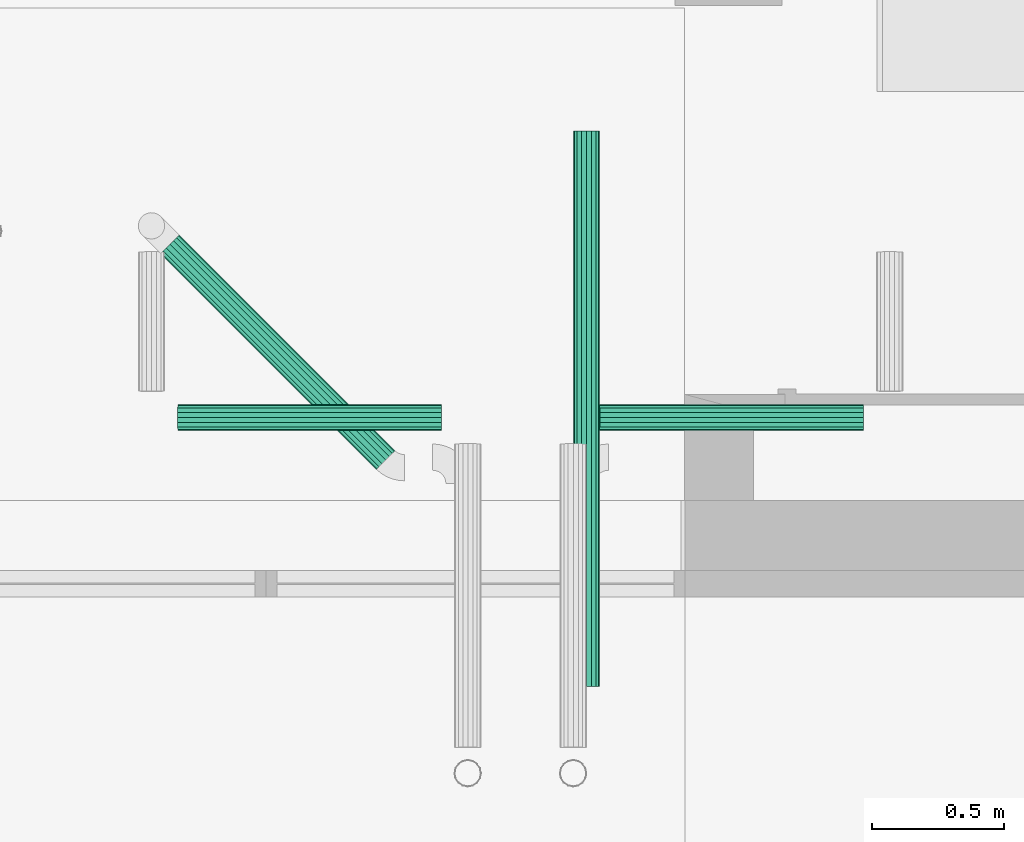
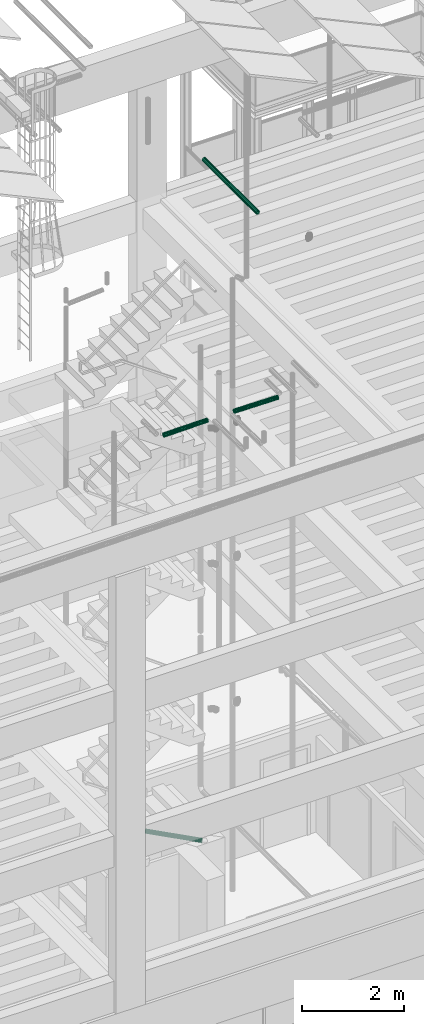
# One storey, part 40 of 108: 4 flow segments.
"""IFC2X3 building model written with IfcOpenShell, lengths in metres."""

from ifc_helpers import new_model, entity, si_unit, converted_unit, derived_unit, money_unit, direction, frame, origin_with_axes, place, context, subcontext, project, spatial, faceted_brep, material, type_object, element, save


model = new_model("IFC2X3")

# Units and contexts
model_context = context("Model", 3, precision=1e-05, world=origin_with_axes(), true_north=direction((0.0, 1.0)))
body_context = subcontext(model_context, "Body", "Model", "MODEL_VIEW", scale=1.0)
ifc_project = project(units=[si_unit("LENGTHUNIT", "METRE"), si_unit("AREAUNIT", "SQUARE_METRE"), si_unit("VOLUMEUNIT", "CUBIC_METRE"), si_unit("ABSORBEDDOSEUNIT", "GRAY"), si_unit("AMOUNTOFSUBSTANCEUNIT", "MOLE"), si_unit("DOSEEQUIVALENTUNIT", "SIEVERT"), si_unit("ELECTRICCAPACITANCEUNIT", "FARAD"), si_unit("ELECTRICCHARGEUNIT", "COULOMB"), si_unit("ELECTRICCONDUCTANCEUNIT", "SIEMENS"), si_unit("ELECTRICCURRENTUNIT", "AMPERE"), si_unit("ELECTRICRESISTANCEUNIT", "OHM"), si_unit("ELECTRICVOLTAGEUNIT", "VOLT"), si_unit("ENERGYUNIT", "JOULE"), si_unit("FORCEUNIT", "NEWTON"), si_unit("FREQUENCYUNIT", "HERTZ"), si_unit("ILLUMINANCEUNIT", "LUX"), si_unit("INDUCTANCEUNIT", "HENRY"), si_unit("LUMINOUSFLUXUNIT", "LUMEN"), si_unit("LUMINOUSINTENSITYUNIT", "CANDELA"), si_unit("MAGNETICFLUXDENSITYUNIT", "TESLA"), si_unit("MAGNETICFLUXUNIT", "WEBER"), si_unit("MASSUNIT", "GRAM"), converted_unit("PLANEANGLEUNIT", "degree", entity("IfcReal", 0.0174532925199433), si_unit("PLANEANGLEUNIT", "RADIAN"), dimensions=[0, 0, 0, 0, 0, 0, 0]), si_unit("POWERUNIT", "WATT"), si_unit("PRESSUREUNIT", "PASCAL"), si_unit("RADIOACTIVITYUNIT", "BECQUEREL"), si_unit("SOLIDANGLEUNIT", "STERADIAN"), si_unit("THERMODYNAMICTEMPERATUREUNIT", "KELVIN"), si_unit("TIMEUNIT", "SECOND"), derived_unit("ACCELERATIONUNIT", [(si_unit("LENGTHUNIT", "METRE"), 1), (si_unit("TIMEUNIT", "SECOND"), -2)]), derived_unit("ANGULARVELOCITYUNIT", [(converted_unit("PLANEANGLEUNIT", "degree", entity("IfcReal", 0.0174532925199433), si_unit("PLANEANGLEUNIT", "RADIAN"), dimensions=[0, 0, 0, 0, 0, 0, 0]), 1), (si_unit("TIMEUNIT", "SECOND"), -1)]), derived_unit("CURVATUREUNIT", [(converted_unit("PLANEANGLEUNIT", "degree", entity("IfcReal", 0.0174532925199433), si_unit("PLANEANGLEUNIT", "RADIAN"), dimensions=[0, 0, 0, 0, 0, 0, 0]), 1), (si_unit("LENGTHUNIT", "METRE"), -1)]), derived_unit("DYNAMICVISCOSITYUNIT", [(si_unit("PRESSUREUNIT", "PASCAL"), 1), (si_unit("TIMEUNIT", "SECOND"), 1)]), derived_unit("HEATFLUXDENSITYUNIT", [(si_unit("POWERUNIT", "WATT"), 1), (si_unit("LENGTHUNIT", "METRE"), -2)]), derived_unit("HEATINGVALUEUNIT", [(si_unit("ENERGYUNIT", "JOULE"), 1), (si_unit("MASSUNIT", "GRAM"), -1)]), derived_unit("INTEGERCOUNTRATEUNIT", [(si_unit("TIMEUNIT", "SECOND"), -1)]), derived_unit("IONCONCENTRATIONUNIT", [(si_unit("MASSUNIT", "GRAM"), 1), (si_unit("VOLUMEUNIT", "CUBIC_METRE"), -1)]), derived_unit("ISOTHERMALMOISTURECAPACITYUNIT", [(si_unit("VOLUMEUNIT", "CUBIC_METRE"), 1), (si_unit("MASSUNIT", "GRAM"), -1)]), derived_unit("KINEMATICVISCOSITYUNIT", [(si_unit("AREAUNIT", "SQUARE_METRE"), 1), (si_unit("TIMEUNIT", "SECOND"), -1)]), derived_unit("LINEARFORCEUNIT", [(si_unit("FORCEUNIT", "NEWTON"), 1), (si_unit("LENGTHUNIT", "METRE"), -1)]), derived_unit("LINEARMOMENTUNIT", [(si_unit("FORCEUNIT", "NEWTON"), 1), (si_unit("LENGTHUNIT", "METRE"), -1)]), derived_unit("LINEARSTIFFNESSUNIT", [(si_unit("FORCEUNIT", "NEWTON"), 1), (si_unit("LENGTHUNIT", "METRE"), -1)]), derived_unit("LINEARVELOCITYUNIT", [(si_unit("LENGTHUNIT", "METRE"), 1), (si_unit("TIMEUNIT", "SECOND"), -1)]), derived_unit("LUMINOUSINTENSITYDISTRIBUTIONUNIT", [(si_unit("LUMINOUSINTENSITYUNIT", "CANDELA"), 1), (si_unit("LUMINOUSFLUXUNIT", "LUMEN"), -1)]), derived_unit("MASSDENSITYUNIT", [(si_unit("MASSUNIT", "GRAM"), 1), (si_unit("VOLUMEUNIT", "CUBIC_METRE"), -1)]), derived_unit("MASSFLOWRATEUNIT", [(si_unit("MASSUNIT", "GRAM"), 1), (si_unit("TIMEUNIT", "SECOND"), -1)]), derived_unit("MASSPERLENGTHUNIT", [(si_unit("MASSUNIT", "GRAM"), 1), (si_unit("LENGTHUNIT", "METRE"), -1)]), derived_unit("MODULUSOFELASTICITYUNIT", [(si_unit("FORCEUNIT", "NEWTON"), 1), (si_unit("AREAUNIT", "SQUARE_METRE"), -1)]), derived_unit("MODULUSOFLINEARSUBGRADEREACTIONUNIT", [(si_unit("FORCEUNIT", "NEWTON"), 1), (si_unit("LENGTHUNIT", "METRE"), -2)]), derived_unit("MODULUSOFROTATIONALSUBGRADEREACTIONUNIT", [(si_unit("FORCEUNIT", "NEWTON"), 1), (si_unit("LENGTHUNIT", "METRE"), 1)]), derived_unit("MODULUSOFSUBGRADEREACTIONUNIT", [(si_unit("FORCEUNIT", "NEWTON"), 1), (si_unit("VOLUMEUNIT", "CUBIC_METRE"), -1)]), derived_unit("MOISTUREDIFFUSIVITYUNIT", [(si_unit("VOLUMEUNIT", "CUBIC_METRE"), 1), (si_unit("TIMEUNIT", "SECOND"), -1)]), derived_unit("MOLECULARWEIGHTUNIT", [(si_unit("MASSUNIT", "GRAM"), 1), (si_unit("AMOUNTOFSUBSTANCEUNIT", "MOLE"), -1)]), derived_unit("PLANARFORCEUNIT", [(si_unit("FORCEUNIT", "NEWTON"), 1), (si_unit("LENGTHUNIT", "METRE"), -2)]), derived_unit("ROTATIONALFREQUENCYUNIT", [(si_unit("TIMEUNIT", "SECOND"), -1)]), derived_unit("ROTATIONALMASSUNIT", [(si_unit("MASSUNIT", "GRAM"), 1), (si_unit("LENGTHUNIT", "METRE"), 2)]), derived_unit("ROTATIONALSTIFFNESSUNIT", [(si_unit("FORCEUNIT", "NEWTON"), 1), (si_unit("LENGTHUNIT", "METRE"), 1), (converted_unit("PLANEANGLEUNIT", "degree", entity("IfcReal", 0.0174532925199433), si_unit("PLANEANGLEUNIT", "RADIAN"), dimensions=[0, 0, 0, 0, 0, 0, 0]), -1)]), derived_unit("SECTIONAREAINTEGRALUNIT", [(si_unit("LENGTHUNIT", "METRE"), 5)]), derived_unit("SECTIONMODULUSUNIT", [(si_unit("LENGTHUNIT", "METRE"), 3)]), derived_unit("SHEARMODULUSUNIT", [(si_unit("FORCEUNIT", "NEWTON"), 1), (si_unit("AREAUNIT", "SQUARE_METRE"), -1)]), derived_unit("SOUNDPOWERUNIT", [(si_unit("ENERGYUNIT", "JOULE"), 1), (si_unit("TIMEUNIT", "SECOND"), -1)]), derived_unit("SPECIFICHEATCAPACITYUNIT", [(si_unit("FORCEUNIT", "NEWTON"), 1), (si_unit("MASSUNIT", "GRAM"), -1), (si_unit("THERMODYNAMICTEMPERATUREUNIT", "KELVIN"), -1)]), derived_unit("TEMPERATUREGRADIENTUNIT", [(si_unit("THERMODYNAMICTEMPERATUREUNIT", "KELVIN"), 1), (si_unit("LENGTHUNIT", "METRE"), -1)]), derived_unit("THERMALADMITTANCEUNIT", [(si_unit("POWERUNIT", "WATT"), 1), (si_unit("AREAUNIT", "SQUARE_METRE"), -1), (si_unit("THERMODYNAMICTEMPERATUREUNIT", "KELVIN"), -1)]), derived_unit("THERMALCONDUCTANCEUNIT", [(si_unit("POWERUNIT", "WATT"), 1), (si_unit("LENGTHUNIT", "METRE"), -1), (si_unit("THERMODYNAMICTEMPERATUREUNIT", "KELVIN"), -1)]), derived_unit("THERMALEXPANSIONCOEFFICIENTUNIT", [(si_unit("THERMODYNAMICTEMPERATUREUNIT", "KELVIN"), -1)]), derived_unit("THERMALRESISTANCEUNIT", [(si_unit("AREAUNIT", "SQUARE_METRE"), 1), (si_unit("POWERUNIT", "WATT"), -1)]), derived_unit("THERMALTRANSMITTANCEUNIT", [(si_unit("POWERUNIT", "WATT"), 1), (si_unit("AREAUNIT", "SQUARE_METRE"), -1), (si_unit("THERMODYNAMICTEMPERATUREUNIT", "KELVIN"), -1)]), derived_unit("TORQUEUNIT", [(si_unit("FORCEUNIT", "NEWTON"), 1), (si_unit("LENGTHUNIT", "METRE"), 1)]), derived_unit("VAPORPERMEABILITYUNIT", [(si_unit("MASSUNIT", "GRAM"), 1), (si_unit("TIMEUNIT", "SECOND"), -1)]), derived_unit("VOLUMETRICFLOWRATEUNIT", [(si_unit("VOLUMEUNIT", "CUBIC_METRE"), 1), (si_unit("TIMEUNIT", "SECOND"), -1)]), derived_unit("WARPINGCONSTANTUNIT", [(si_unit("LENGTHUNIT", "METRE"), 6)]), derived_unit("WARPINGMOMENTUNIT", [(si_unit("FORCEUNIT", "NEWTON"), 1), (si_unit("LENGTHUNIT", "METRE"), 2)]), money_unit("GBP")], contexts=[model_context])

# Site, building, storey
site_placement = place(None, origin_with_axes())
site = spatial("IfcSite", under=ifc_project, at=site_placement, Name="Site", CompositionType="ELEMENT")
building_placement = place(site_placement, origin_with_axes())
building = spatial("IfcBuilding", under=site, at=building_placement, Name="Building01", CompositionType="ELEMENT")
storey_placement = place(building_placement, origin_with_axes())
storey = spatial("IfcBuildingStorey", under=building, at=storey_placement, Name="GF", CompositionType="ELEMENT", Elevation=0.0)

# Flow segments
ifc_material_1 = material(Name="M_BSUK_Ventilation")
duct_segment_type = type_object("IfcDuctSegmentType", Name="M-RoundDuct", PredefinedType="RIGIDSEGMENT")
flow_segment_1_placement = place(storey_placement, frame((13.75, 3.119885, 20.03), z_axis=(0.0, 0.0, 1.0), x_axis=(0.0, 1.0, 0.0)))
element("IfcFlowSegment", 1, at=flow_segment_1_placement, inside=storey, type_object=duct_segment_type, material=ifc_material_1, Name="M-RoundDuct", ObjectType="M-RoundDuct", context=body_context, shape_type="Brep", body=[
    faceted_brep([(2.106218, 0.0, -0.05), (0.0, 0.0, -0.05), (0.0, 0.019134, -0.046194), (2.106218, 0.019134, -0.046194), (0.0, 0.035355, -0.035355), (2.106218, 0.035355, -0.035355), (0.0, 0.046194, -0.019134), (2.106218, 0.046194, -0.019134), (0.0, 0.05, 0.0), (2.106218, 0.05, 0.0), (0.0, 0.046194, 0.019134), (2.106218, 0.046194, 0.019134), (0.0, 0.035355, 0.035355), (2.106218, 0.035355, 0.035355), (0.0, 0.019134, 0.046194), (2.106218, 0.019134, 0.046194), (0.0, 0.0, 0.05), (2.106218, 0.0, 0.05), (0.0, -0.019134, 0.046194), (2.106218, -0.019134, 0.046194), (0.0, -0.035355, 0.035355), (2.106218, -0.035355, 0.035355), (0.0, -0.046194, 0.019134), (2.106218, -0.046194, 0.019134), (0.0, -0.05, 0.0), (2.106218, -0.05, 0.0), (0.0, -0.046194, -0.019134), (2.106218, -0.046194, -0.019134), (0.0, -0.035355, -0.035355), (2.106218, -0.035355, -0.035355), (0.0, -0.019134, -0.046194), (2.106218, -0.019134, -0.046194)], [[[0, 1, 2, 3]], [[3, 2, 4, 5]], [[5, 4, 6, 7]], [[7, 6, 8, 9]], [[9, 8, 10, 11]], [[11, 10, 12, 13]], [[13, 12, 14, 15]], [[15, 14, 16, 17]], [[17, 16, 18, 19]], [[19, 18, 20, 21]], [[21, 20, 22, 23]], [[23, 22, 24, 25]], [[25, 24, 26, 27]], [[27, 26, 28, 29]], [[29, 28, 30, 31]], [[31, 30, 1, 0]]]),
])
ifc_material_2 = material(Name="M_BSUK_ColdWater")
pipe_segment_type = type_object("IfcPipeSegmentType", Name="M-BmpStraightpipe-DefaultPipe", PredefinedType="RIGIDSEGMENT")
for number, where, z_axis, x_axis in (
    (2, (13.200023, 4.139428, 14.622338), (-0.01249902, 0.0, 0.99992188), (-0.99992188, 0.0, -0.01249902)),
    (3, (13.799977, 4.139428, 14.622338), (-0.01249902, 0.0, -0.99992188), (0.99992188, 0.0, -0.01249902)),
):
    element("IfcFlowSegment", number, at=place(storey_placement, frame(where, z_axis=z_axis, x_axis=x_axis)), inside=storey, type_object=pipe_segment_type, material=ifc_material_2, Name="M-BmpStraightpipe-DefaultPipe", ObjectType="M-BmpStraightpipe-DefaultPipe", context=body_context, shape_type="Brep", body=[
        faceted_brep([(1.000125, 0.0, -0.05), (0.0, 0.0, -0.05), (0.0, 0.019134, -0.046194), (1.000125, 0.019134, -0.046194), (0.0, 0.035355, -0.035355), (1.000125, 0.035355, -0.035355), (0.0, 0.046194, -0.019134), (1.000125, 0.046194, -0.019134), (0.0, 0.05, 0.0), (1.000125, 0.05, 0.0), (0.0, 0.046194, 0.019134), (1.000125, 0.046194, 0.019134), (0.0, 0.035355, 0.035355), (1.000125, 0.035355, 0.035355), (0.0, 0.019134, 0.046194), (1.000125, 0.019134, 0.046194), (0.0, 0.0, 0.05), (1.000125, 0.0, 0.05), (0.0, -0.019134, 0.046194), (1.000125, -0.019134, 0.046194), (0.0, -0.035355, 0.035355), (1.000125, -0.035355, 0.035355), (0.0, -0.046194, 0.019134), (1.000125, -0.046194, 0.019134), (0.0, -0.05, 0.0), (1.000125, -0.05, 0.0), (0.0, -0.046194, -0.019134), (1.000125, -0.046194, -0.019134), (0.0, -0.035355, -0.035355), (1.000125, -0.035355, -0.035355), (0.0, -0.019134, -0.046194), (1.000125, -0.019134, -0.046194)], [[[0, 1, 2, 3]], [[3, 2, 4, 5]], [[5, 4, 6, 7]], [[7, 6, 8, 9]], [[9, 8, 10, 11]], [[11, 10, 12, 13]], [[13, 12, 14, 15]], [[15, 14, 16, 17]], [[17, 16, 18, 19]], [[19, 18, 20, 21]], [[21, 20, 22, 23]], [[23, 22, 24, 25]], [[25, 24, 26, 27]], [[27, 26, 28, 29]], [[29, 28, 30, 31]], [[31, 30, 1, 0]]]),
    ])
flow_segment_2_placement = place(storey_placement, frame((12.169827, 4.796648, 4.714827), z_axis=(0.00883814, -0.00883814, 0.99992188), x_axis=(0.70705155, -0.70705154, -0.01249902)))
element("IfcFlowSegment", 4, at=flow_segment_2_placement, inside=storey, type_object=pipe_segment_type, material=ifc_material_2, Name="M-BmpStraightpipe-DefaultPipe", ObjectType="M-BmpStraightpipe-DefaultPipe", context=body_context, shape_type="Brep", body=[
    faceted_brep([(1.157486, 0.0, -0.05), (0.0, 0.0, -0.05), (0.0, 0.019134, -0.046194), (1.157486, 0.019134, -0.046194), (0.0, 0.035355, -0.035355), (1.157486, 0.035355, -0.035355), (0.0, 0.046194, -0.019134), (1.157486, 0.046194, -0.019134), (0.0, 0.05, 0.0), (1.157486, 0.05, 0.0), (0.0, 0.046194, 0.019134), (1.157486, 0.046194, 0.019134), (0.0, 0.035355, 0.035355), (1.157486, 0.035355, 0.035355), (0.0, 0.019134, 0.046194), (1.157486, 0.019134, 0.046194), (0.0, 0.0, 0.05), (1.157486, 0.0, 0.05), (0.0, -0.019134, 0.046194), (1.157486, -0.019134, 0.046194), (0.0, -0.035355, 0.035355), (1.157486, -0.035355, 0.035355), (0.0, -0.046194, 0.019134), (1.157486, -0.046194, 0.019134), (0.0, -0.05, 0.0), (1.157486, -0.05, 0.0), (0.0, -0.046194, -0.019134), (1.157486, -0.046194, -0.019134), (0.0, -0.035355, -0.035355), (1.157486, -0.035355, -0.035355), (0.0, -0.019134, -0.046194), (1.157486, -0.019134, -0.046194)], [[[0, 1, 2, 3]], [[3, 2, 4, 5]], [[5, 4, 6, 7]], [[7, 6, 8, 9]], [[9, 8, 10, 11]], [[11, 10, 12, 13]], [[13, 12, 14, 15]], [[15, 14, 16, 17]], [[17, 16, 18, 19]], [[19, 18, 20, 21]], [[21, 20, 22, 23]], [[23, 22, 24, 25]], [[25, 24, 26, 27]], [[27, 26, 28, 29]], [[29, 28, 30, 31]], [[31, 30, 1, 0]]]),
])

save(model, "model.ifc")
